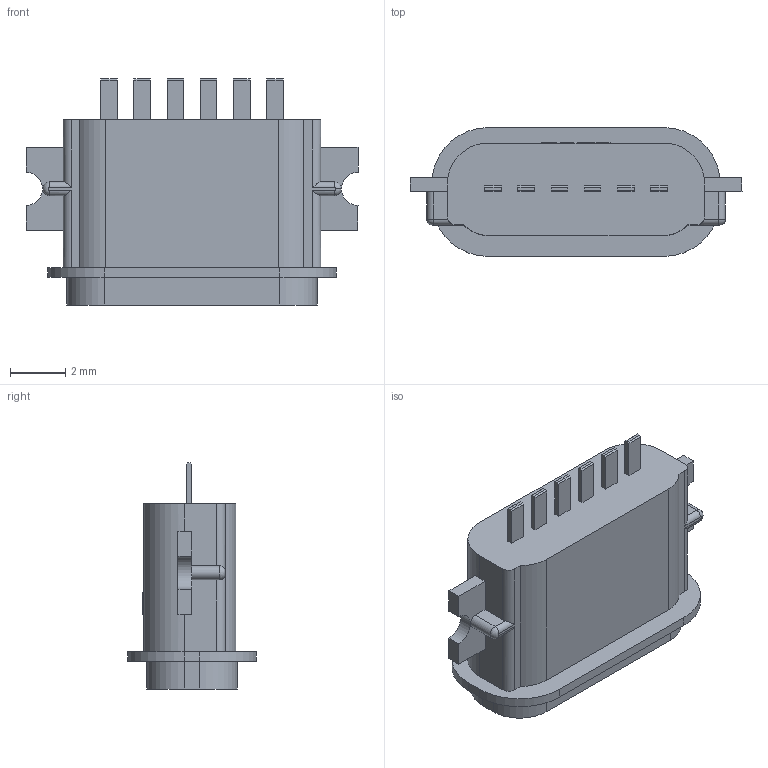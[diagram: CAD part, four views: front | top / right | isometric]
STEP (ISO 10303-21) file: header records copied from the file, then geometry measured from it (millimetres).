
FILE_DESCRIPTION (( 'STEP AP203' ), '1' );
FILE_NAME ('U5267-06PN1.6C6.7LF.STEP', '2026-09-28T05:46:06', ( '' ), ( '' ), 'SwSTEP 2.0', 'SolidWorks 2024', '' );
FILE_SCHEMA (( 'CONFIG_CONTROL_DESIGN' ));
Length unit declared in the file: millimetre
Products named in the file (1): U5267-06PN1.6C6.7LF
Bounding box: 12 x 4.66 x 8.17 mm (x, y, z)
Volume: 136.6 mm3; surface area: 443.7 mm2
Topology: 1 solids, 1 shells, 509 faces, 1393 edges, 902 vertices
Faces by surface type: plane 397, cylinder 64, bspline 25, cone 8, sphere 8, torus 7
Entity records: 17422 total; most frequent: CARTESIAN_POINT 4773, ORIENTED_EDGE 2770, DIRECTION 2306, EDGE_CURVE 1385, LINE 1126, VECTOR 1126, VERTEX_POINT 902, AXIS2_PLACEMENT_3D 590
